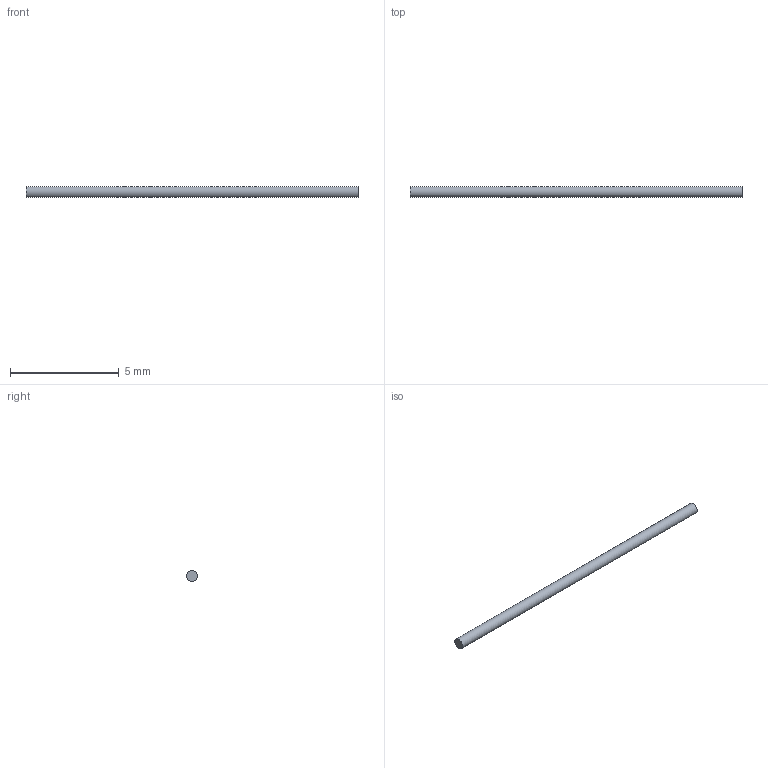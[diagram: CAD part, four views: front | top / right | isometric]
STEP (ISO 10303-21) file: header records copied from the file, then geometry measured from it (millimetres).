
FILE_DESCRIPTION(('FreeCAD Model'),'2;1');
FILE_NAME('Open CASCADE Shape Model','2026-04-07T19:07:43',('FreeCAD'),( 'FreeCAD'),'Open CASCADE STEP processor 7.8','FreeCAD','Unknown');
FILE_SCHEMA(('AUTOMOTIVE_DESIGN { 1 0 10303 214 1 1 1 1 }'));
Length unit declared in the file: millimetre
Products named in the file (1): Open CASCADE STEP translator 7.8 21
Bounding box: 15.24 x 0.5 x 0.5 mm (x, y, z)
Volume: 3 mm3; surface area: 24.3 mm2
Topology: 1 solids, 1 shells, 3 faces, 3 edges, 2 vertices
Faces by surface type: plane 2, cylinder 1
Full cylindrical faces by diameter (mm): 0.5 x1
Entity records: 69 total; most frequent: DIRECTION 13, CARTESIAN_POINT 9, AXIS2_PLACEMENT_3D 6, ORIENTED_EDGE 6, ADVANCED_FACE 3, FACE_BOUND 3, EDGE_LOOP 3, EDGE_CURVE 3
